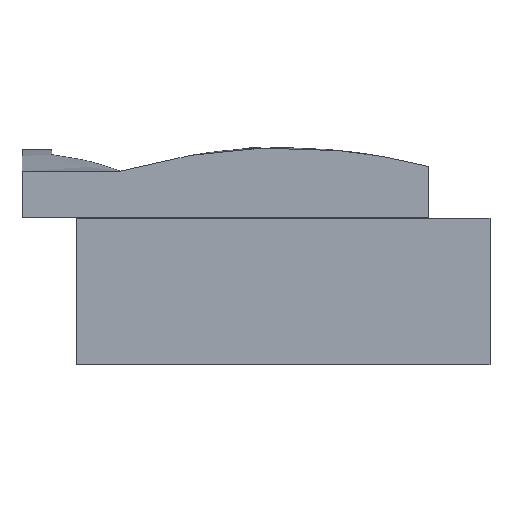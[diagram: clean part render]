
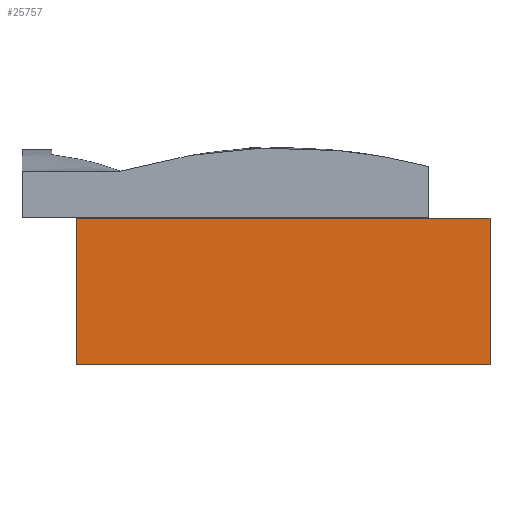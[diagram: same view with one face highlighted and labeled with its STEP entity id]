
A CAD part, left-side view. The second image highlights one B-rep face of the part: STEP entity #25757.
In plain terms, the highlighted planar face has unit normal (-1, 0, 0).
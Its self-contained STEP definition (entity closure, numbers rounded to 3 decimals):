
#364 = LINE ( 'NONE', #32596, #41143 ) ;
#954 = LINE ( 'NONE', #29849, #16776 ) ;
#2094 = CARTESIAN_POINT ( 'NONE',  ( -128.5, 132.5, 0. ) ) ;
#3231 = FACE_OUTER_BOUND ( 'NONE', #24343, .T. ) ;
#3534 = VERTEX_POINT ( 'NONE', #20076 ) ;
#4163 = CARTESIAN_POINT ( 'NONE',  ( -128.5, -132.5, 94. ) ) ;
#5712 = VERTEX_POINT ( 'NONE', #34842 ) ;
#6740 = ORIENTED_EDGE ( 'NONE', *, *, #21642, .F. ) ;
#8178 = DIRECTION ( 'NONE',  ( 0., -1., 0. ) ) ;
#8576 = VERTEX_POINT ( 'NONE', #4163 ) ;
#10318 = DIRECTION ( 'NONE',  ( 0., 0., -1. ) ) ;
#12351 = CARTESIAN_POINT ( 'NONE',  ( -128.5, -132.5, 94. ) ) ;
#12416 = VERTEX_POINT ( 'NONE', #2094 ) ;
#13833 = CARTESIAN_POINT ( 'NONE',  ( -128.5, -132.5, 0. ) ) ;
#15353 = EDGE_CURVE ( 'NONE', #12416, #3534, #17365, .T. ) ;
#15460 = AXIS2_PLACEMENT_3D ( 'NONE', #35460, #22254, #10318 ) ;
#16776 = VECTOR ( 'NONE', #21220, 1000. ) ;
#17365 = LINE ( 'NONE', #13833, #22013 ) ;
#20076 = CARTESIAN_POINT ( 'NONE',  ( -128.5, -132.5, 0. ) ) ;
#21220 = DIRECTION ( 'NONE',  ( 0., 0., -1. ) ) ;
#21642 = EDGE_CURVE ( 'NONE', #8576, #3534, #954, .T. ) ;
#22013 = VECTOR ( 'NONE', #8178, 1000. ) ;
#22254 = DIRECTION ( 'NONE',  ( 1., 0., 0. ) ) ;
#22529 = DIRECTION ( 'NONE',  ( 0., 0., -1. ) ) ;
#24343 = EDGE_LOOP ( 'NONE', ( #40354, #6740, #35533, #37214 ) ) ;
#25087 = DIRECTION ( 'NONE',  ( 0., -1., 0. ) ) ;
#25757 = ADVANCED_FACE ( 'NONE', ( #3231 ), #31896, .F. ) ;
#29849 = CARTESIAN_POINT ( 'NONE',  ( -128.5, -132.5, 94. ) ) ;
#30997 = LINE ( 'NONE', #12351, #36393 ) ;
#31896 = PLANE ( 'NONE',  #15460 ) ;
#32596 = CARTESIAN_POINT ( 'NONE',  ( -128.5, 132.5, 94. ) ) ;
#34842 = CARTESIAN_POINT ( 'NONE',  ( -128.5, 132.5, 94. ) ) ;
#35412 = EDGE_CURVE ( 'NONE', #5712, #8576, #30997, .T. ) ;
#35460 = CARTESIAN_POINT ( 'NONE',  ( -128.5, -132.5, 94. ) ) ;
#35533 = ORIENTED_EDGE ( 'NONE', *, *, #35412, .F. ) ;
#36393 = VECTOR ( 'NONE', #25087, 1000. ) ;
#37214 = ORIENTED_EDGE ( 'NONE', *, *, #38833, .T. ) ;
#38833 = EDGE_CURVE ( 'NONE', #5712, #12416, #364, .T. ) ;
#40354 = ORIENTED_EDGE ( 'NONE', *, *, #15353, .T. ) ;
#41143 = VECTOR ( 'NONE', #22529, 1000. ) ;
